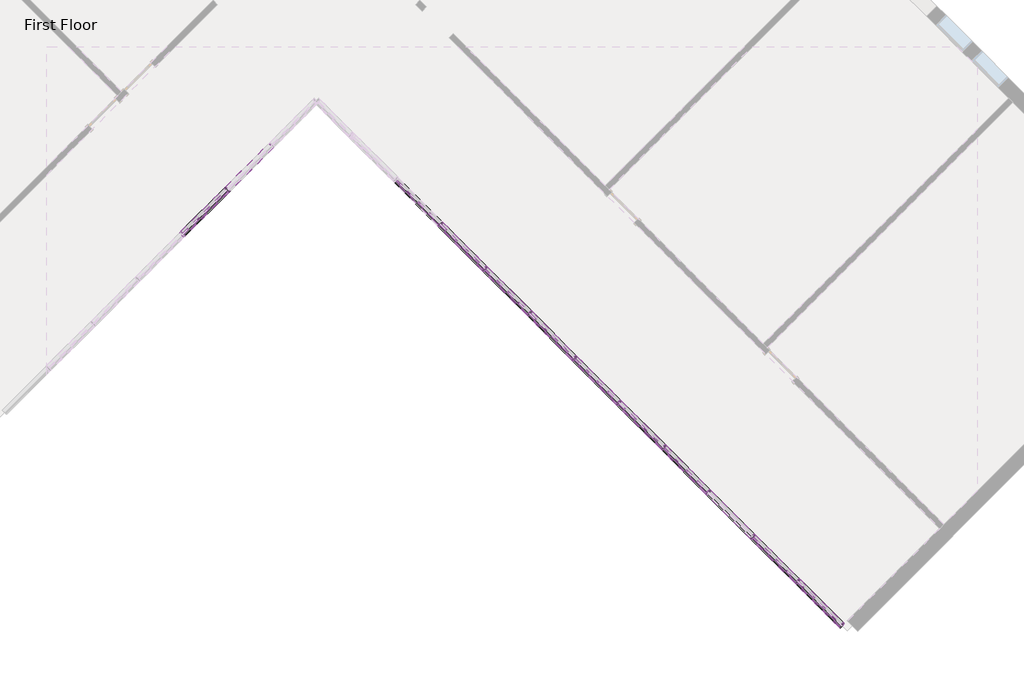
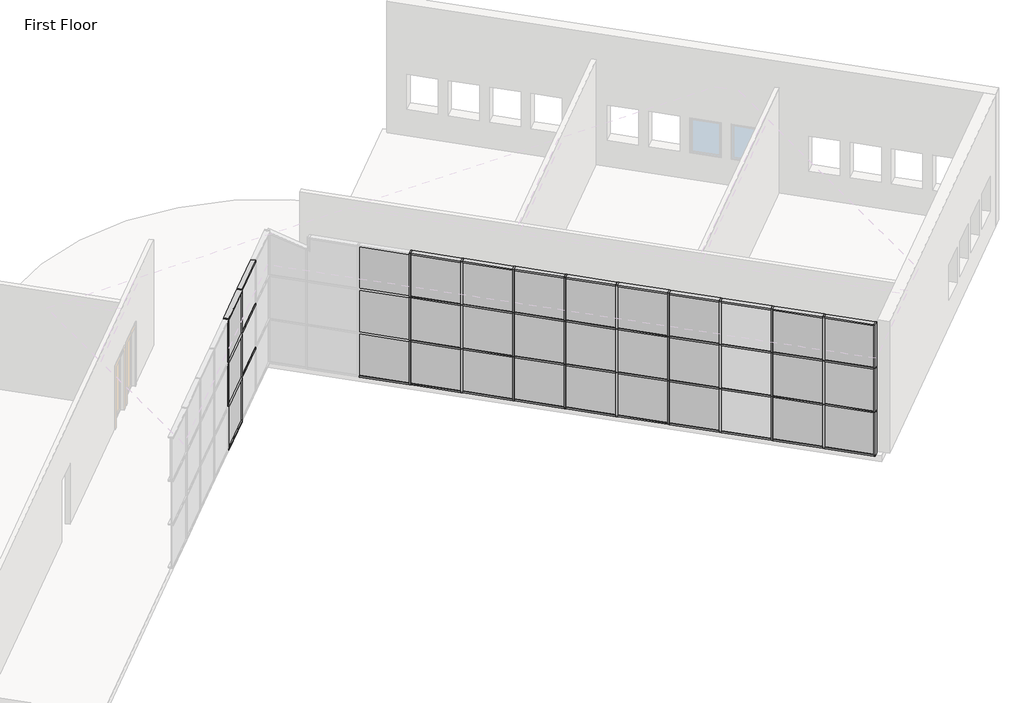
# One storey, part 2 of 4: 77 members, 30 plates.
"""IFC4 building model written with IfcOpenShell, lengths in millimetres."""

from ifc_helpers import new_model, si_unit, origin, place, context, project, spatial, transform, mapped, element, save
from components import rectangular_mullion_50_x_150mm_339d4f99, rectangular_mullion_50_x_150mm_40297ad3, rectangular_mullion_50_x_150mm_ccbf48d0, rectangular_mullion_50_x_150mm_f494fff1, rectangular_mullion_50_x_150mm_5da8f88f, rectangular_mullion_50_x_150mm_6261b450, rectangular_mullion_50_x_150mm_4d330a12, system_panel_glazed_62d989f2, system_panel_glazed_a417ca2b, system_panel_glazed_b8bd361a, system_panel_glazed_7c4ff273, system_panel_solid_7096e89f, system_panel_solid_b6abb4cb, system_panel_solid_a570f427

model = new_model("IFC4")

# Units and contexts
model_context = context("Model", 3, world=origin())
ifc_project = project(units=[si_unit("LENGTHUNIT", "METRE", prefix="MILLI")], contexts=[model_context])

# Site, building, storey
site = spatial("IfcSite", under=ifc_project)
building = spatial("IfcBuilding", under=site)
storey = spatial("IfcBuildingStorey", under=building, Name="First Floor", Elevation=0.0)

# Members
placement = place(None, origin())
rectangular_mullion_50_x_150mm_shape = rectangular_mullion_50_x_150mm_339d4f99(model_context)
element("IfcMember", 1, ObjectType="Rectangular Mullion : 50 x 150mm", at=placement, inside=storey, context=model_context, shape_type="MappedRepresentation", body=[
    mapped(rectangular_mullion_50_x_150mm_shape, transform((11047.480406, -10654.0737858, 0.0), x_axis=(0.0, 0.0, -1.0), y_axis=(0.7071067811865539, 0.7071067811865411, 0.0), z_axis=(0.7071067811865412, -0.707106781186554, 0.0))),
])
rectangular_mullion_50_x_150mm_2_shape = rectangular_mullion_50_x_150mm_40297ad3(model_context)
element("IfcMember", 2, ObjectType="Rectangular Mullion : 50 x 150mm", at=placement, inside=storey, context=model_context, shape_type="MappedRepresentation", body=[
    mapped(rectangular_mullion_50_x_150mm_2_shape, transform((-3756.507165, -160.609153, 0.0), x_axis=(-0.7071067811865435, -0.7071067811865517, 0.0), y_axis=(-0.7071067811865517, 0.7071067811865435, 0.0), z_axis=(0.0, 0.0, -1.0))),
])
element("IfcMember", 3, ObjectType="Rectangular Mullion : 50 x 150mm", at=placement, inside=storey, context=model_context, shape_type="MappedRepresentation", body=[
    mapped(rectangular_mullion_50_x_150mm_2_shape, transform((10005.2050105, -9611.7983903, 0.0), x_axis=(-0.7071067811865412, 0.7071067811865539, 0.0), y_axis=(0.7071067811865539, 0.7071067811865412, 0.0), z_axis=(0.0, 0.0, -1.0))),
])
element("IfcMember", 4, ObjectType="Rectangular Mullion : 50 x 150mm", at=placement, inside=storey, context=model_context, shape_type="MappedRepresentation", body=[
    mapped(rectangular_mullion_50_x_150mm_2_shape, transform((8927.574276, -8534.1676558, 0.0), x_axis=(-0.7071067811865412, 0.7071067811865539, 0.0), y_axis=(0.7071067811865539, 0.7071067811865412, 0.0), z_axis=(0.0, 0.0, -1.0))),
])
element("IfcMember", 5, ObjectType="Rectangular Mullion : 50 x 150mm", at=placement, inside=storey, context=model_context, shape_type="MappedRepresentation", body=[
    mapped(rectangular_mullion_50_x_150mm_2_shape, transform((7849.9435414, -7456.5369213, 0.0), x_axis=(-0.7071067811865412, 0.7071067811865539, 0.0), y_axis=(0.7071067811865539, 0.7071067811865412, 0.0), z_axis=(0.0, 0.0, -1.0))),
])
element("IfcMember", 6, ObjectType="Rectangular Mullion : 50 x 150mm", at=placement, inside=storey, context=model_context, shape_type="MappedRepresentation", body=[
    mapped(rectangular_mullion_50_x_150mm_2_shape, transform((6772.3128069, -6378.9061867, 0.0), x_axis=(-0.7071067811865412, 0.7071067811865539, 0.0), y_axis=(0.7071067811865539, 0.7071067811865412, 0.0), z_axis=(0.0, 0.0, -1.0))),
])
element("IfcMember", 7, ObjectType="Rectangular Mullion : 50 x 150mm", at=placement, inside=storey, context=model_context, shape_type="MappedRepresentation", body=[
    mapped(rectangular_mullion_50_x_150mm_2_shape, transform((5694.6820724, -5301.2754522, 0.0), x_axis=(-0.7071067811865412, 0.7071067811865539, 0.0), y_axis=(0.7071067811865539, 0.7071067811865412, 0.0), z_axis=(0.0, 0.0, -1.0))),
])
element("IfcMember", 8, ObjectType="Rectangular Mullion : 50 x 150mm", at=placement, inside=storey, context=model_context, shape_type="MappedRepresentation", body=[
    mapped(rectangular_mullion_50_x_150mm_2_shape, transform((4617.0513378, -4223.6447177, 0.0), x_axis=(-0.7071067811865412, 0.7071067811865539, 0.0), y_axis=(0.7071067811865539, 0.7071067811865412, 0.0), z_axis=(0.0, 0.0, -1.0))),
])
element("IfcMember", 9, ObjectType="Rectangular Mullion : 50 x 150mm", at=placement, inside=storey, context=model_context, shape_type="MappedRepresentation", body=[
    mapped(rectangular_mullion_50_x_150mm_2_shape, transform((3539.4206033, -3146.0139832, 0.0), x_axis=(-0.7071067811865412, 0.7071067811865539, 0.0), y_axis=(0.7071067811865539, 0.7071067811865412, 0.0), z_axis=(0.0, 0.0, -1.0))),
])
element("IfcMember", 10, ObjectType="Rectangular Mullion : 50 x 150mm", at=placement, inside=storey, context=model_context, shape_type="MappedRepresentation", body=[
    mapped(rectangular_mullion_50_x_150mm_2_shape, transform((2461.7898688, -2068.3832486, 0.0), x_axis=(-0.7071067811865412, 0.7071067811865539, 0.0), y_axis=(0.7071067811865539, 0.7071067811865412, 0.0), z_axis=(0.0, 0.0, -1.0))),
])
element("IfcMember", 11, ObjectType="Rectangular Mullion : 50 x 150mm", at=placement, inside=storey, context=model_context, shape_type="MappedRepresentation", body=[
    mapped(rectangular_mullion_50_x_150mm_2_shape, transform((1384.1591343, -990.7525141, 0.0), x_axis=(-0.7071067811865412, 0.7071067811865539, 0.0), y_axis=(0.7071067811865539, 0.7071067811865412, 0.0), z_axis=(0.0, 0.0, -1.0))),
])
rectangular_mullion_50_x_150mm_3_shape = rectangular_mullion_50_x_150mm_ccbf48d0(model_context)
element("IfcMember", 12, ObjectType="Rectangular Mullion : 50 x 150mm", at=placement, inside=storey, context=model_context, shape_type="MappedRepresentation", body=[
    mapped(rectangular_mullion_50_x_150mm_3_shape, transform((10022.88268, -9629.4760599, 1524.0), x_axis=(0.0, 0.0, 1.0), y_axis=(0.7071067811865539, 0.7071067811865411, 0.0), z_axis=(-0.7071067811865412, 0.707106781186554, 0.0))),
])
element("IfcMember", 13, ObjectType="Rectangular Mullion : 50 x 150mm", at=placement, inside=storey, context=model_context, shape_type="MappedRepresentation", body=[
    mapped(rectangular_mullion_50_x_150mm_3_shape, transform((10022.88268, -9629.4760599, 3048.0), x_axis=(0.0, 0.0, 1.0), y_axis=(0.7071067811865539, 0.7071067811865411, 0.0), z_axis=(-0.7071067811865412, 0.707106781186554, 0.0))),
])
rectangular_mullion_50_x_150mm_4_shape = rectangular_mullion_50_x_150mm_f494fff1(model_context)
element("IfcMember", 14, ObjectType="Rectangular Mullion : 50 x 150mm", at=placement, inside=storey, context=model_context, shape_type="MappedRepresentation", body=[
    mapped(rectangular_mullion_50_x_150mm_4_shape, transform((-3738.8294954, -142.9314835, 1524.0), x_axis=(0.0, 0.0, 1.0), y_axis=(-0.7071067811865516, 0.7071067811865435, 0.0), z_axis=(-0.7071067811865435, -0.7071067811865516, 0.0))),
])
element("IfcMember", 15, ObjectType="Rectangular Mullion : 50 x 150mm", at=placement, inside=storey, context=model_context, shape_type="MappedRepresentation", body=[
    mapped(rectangular_mullion_50_x_150mm_4_shape, transform((-3738.8294954, -142.9314835, 3048.0), x_axis=(0.0, 0.0, 1.0), y_axis=(-0.7071067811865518, 0.7071067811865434, 0.0), z_axis=(-0.7071067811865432, -0.7071067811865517, 0.0))),
])
element("IfcMember", 16, ObjectType="Rectangular Mullion : 50 x 150mm", at=placement, inside=storey, context=model_context, shape_type="MappedRepresentation", body=[
    mapped(rectangular_mullion_50_x_150mm_4_shape, transform((8945.2519455, -8551.8453253, 1524.0), x_axis=(0.0, 0.0, 1.0), y_axis=(0.7071067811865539, 0.7071067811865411, 0.0), z_axis=(-0.7071067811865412, 0.707106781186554, 0.0))),
])
element("IfcMember", 17, ObjectType="Rectangular Mullion : 50 x 150mm", at=placement, inside=storey, context=model_context, shape_type="MappedRepresentation", body=[
    mapped(rectangular_mullion_50_x_150mm_4_shape, transform((7867.621211, -7474.2145908, 1524.0), x_axis=(0.0, 0.0, 1.0), y_axis=(0.7071067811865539, 0.7071067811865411, 0.0), z_axis=(-0.7071067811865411, 0.7071067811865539, 0.0))),
])
element("IfcMember", 18, ObjectType="Rectangular Mullion : 50 x 150mm", at=placement, inside=storey, context=model_context, shape_type="MappedRepresentation", body=[
    mapped(rectangular_mullion_50_x_150mm_4_shape, transform((6789.9904764, -6396.5838563, 1524.0), x_axis=(0.0, 0.0, 1.0), y_axis=(0.7071067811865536, 0.7071067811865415, 0.0), z_axis=(-0.7071067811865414, 0.7071067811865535, 0.0))),
])
element("IfcMember", 19, ObjectType="Rectangular Mullion : 50 x 150mm", at=placement, inside=storey, context=model_context, shape_type="MappedRepresentation", body=[
    mapped(rectangular_mullion_50_x_150mm_4_shape, transform((5712.3597419, -5318.9531217, 1524.0), x_axis=(0.0, 0.0, 1.0), y_axis=(0.7071067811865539, 0.7071067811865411, 0.0), z_axis=(-0.7071067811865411, 0.7071067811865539, 0.0))),
])
element("IfcMember", 20, ObjectType="Rectangular Mullion : 50 x 150mm", at=placement, inside=storey, context=model_context, shape_type="MappedRepresentation", body=[
    mapped(rectangular_mullion_50_x_150mm_4_shape, transform((4634.7290074, -4241.3223872, 1524.0), x_axis=(0.0, 0.0, 1.0), y_axis=(0.707106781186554, 0.7071067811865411, 0.0), z_axis=(-0.707106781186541, 0.7071067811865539, 0.0))),
])
element("IfcMember", 21, ObjectType="Rectangular Mullion : 50 x 150mm", at=placement, inside=storey, context=model_context, shape_type="MappedRepresentation", body=[
    mapped(rectangular_mullion_50_x_150mm_4_shape, transform((3557.0982728, -3163.6916527, 1524.0), x_axis=(0.0, 0.0, 1.0), y_axis=(0.7071067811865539, 0.7071067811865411, 0.0), z_axis=(-0.7071067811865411, 0.7071067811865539, 0.0))),
])
element("IfcMember", 22, ObjectType="Rectangular Mullion : 50 x 150mm", at=placement, inside=storey, context=model_context, shape_type="MappedRepresentation", body=[
    mapped(rectangular_mullion_50_x_150mm_4_shape, transform((2479.4675383, -2086.0609182, 1524.0), x_axis=(0.0, 0.0, 1.0), y_axis=(0.7071067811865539, 0.7071067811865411, 0.0), z_axis=(-0.7071067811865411, 0.7071067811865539, 0.0))),
])
element("IfcMember", 23, ObjectType="Rectangular Mullion : 50 x 150mm", at=placement, inside=storey, context=model_context, shape_type="MappedRepresentation", body=[
    mapped(rectangular_mullion_50_x_150mm_4_shape, transform((1401.8368038, -1008.4301836, 1524.0), x_axis=(0.0, 0.0, 1.0), y_axis=(0.7071067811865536, 0.7071067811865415, 0.0), z_axis=(-0.7071067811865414, 0.7071067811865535, 0.0))),
])
element("IfcMember", 24, ObjectType="Rectangular Mullion : 50 x 150mm", at=placement, inside=storey, context=model_context, shape_type="MappedRepresentation", body=[
    mapped(rectangular_mullion_50_x_150mm_4_shape, transform((8945.2519455, -8551.8453253, 3048.0), x_axis=(0.0, 0.0, 1.0), y_axis=(0.7071067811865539, 0.7071067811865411, 0.0), z_axis=(-0.7071067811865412, 0.707106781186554, 0.0))),
])
element("IfcMember", 25, ObjectType="Rectangular Mullion : 50 x 150mm", at=placement, inside=storey, context=model_context, shape_type="MappedRepresentation", body=[
    mapped(rectangular_mullion_50_x_150mm_4_shape, transform((7867.621211, -7474.2145908, 3048.0), x_axis=(0.0, 0.0, 1.0), y_axis=(0.7071067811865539, 0.7071067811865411, 0.0), z_axis=(-0.7071067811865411, 0.7071067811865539, 0.0))),
])
element("IfcMember", 26, ObjectType="Rectangular Mullion : 50 x 150mm", at=placement, inside=storey, context=model_context, shape_type="MappedRepresentation", body=[
    mapped(rectangular_mullion_50_x_150mm_4_shape, transform((6789.9904764, -6396.5838563, 3048.0), x_axis=(0.0, 0.0, 1.0), y_axis=(0.7071067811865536, 0.7071067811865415, 0.0), z_axis=(-0.7071067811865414, 0.7071067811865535, 0.0))),
])
element("IfcMember", 27, ObjectType="Rectangular Mullion : 50 x 150mm", at=placement, inside=storey, context=model_context, shape_type="MappedRepresentation", body=[
    mapped(rectangular_mullion_50_x_150mm_4_shape, transform((5712.3597419, -5318.9531217, 3048.0), x_axis=(0.0, 0.0, 1.0), y_axis=(0.7071067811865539, 0.7071067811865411, 0.0), z_axis=(-0.7071067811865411, 0.7071067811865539, 0.0))),
])
element("IfcMember", 28, ObjectType="Rectangular Mullion : 50 x 150mm", at=placement, inside=storey, context=model_context, shape_type="MappedRepresentation", body=[
    mapped(rectangular_mullion_50_x_150mm_4_shape, transform((4634.7290074, -4241.3223872, 3048.0), x_axis=(0.0, 0.0, 1.0), y_axis=(0.7071067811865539, 0.7071067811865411, 0.0), z_axis=(-0.7071067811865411, 0.7071067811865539, 0.0))),
])
element("IfcMember", 29, ObjectType="Rectangular Mullion : 50 x 150mm", at=placement, inside=storey, context=model_context, shape_type="MappedRepresentation", body=[
    mapped(rectangular_mullion_50_x_150mm_4_shape, transform((3557.0982728, -3163.6916527, 3048.0), x_axis=(0.0, 0.0, 1.0), y_axis=(0.7071067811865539, 0.7071067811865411, 0.0), z_axis=(-0.7071067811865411, 0.7071067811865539, 0.0))),
])
element("IfcMember", 30, ObjectType="Rectangular Mullion : 50 x 150mm", at=placement, inside=storey, context=model_context, shape_type="MappedRepresentation", body=[
    mapped(rectangular_mullion_50_x_150mm_4_shape, transform((2479.4675383, -2086.0609182, 3048.0), x_axis=(0.0, 0.0, 1.0), y_axis=(0.7071067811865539, 0.7071067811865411, 0.0), z_axis=(-0.7071067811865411, 0.7071067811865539, 0.0))),
])
element("IfcMember", 31, ObjectType="Rectangular Mullion : 50 x 150mm", at=placement, inside=storey, context=model_context, shape_type="MappedRepresentation", body=[
    mapped(rectangular_mullion_50_x_150mm_4_shape, transform((1401.8368038, -1008.4301836, 3048.0), x_axis=(0.0, 0.0, 1.0), y_axis=(0.7071067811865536, 0.7071067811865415, 0.0), z_axis=(-0.7071067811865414, 0.7071067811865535, 0.0))),
])
rectangular_mullion_50_x_150mm_5_shape = rectangular_mullion_50_x_150mm_5da8f88f(model_context)
element("IfcMember", 32, ObjectType="Rectangular Mullion : 50 x 150mm", at=placement, inside=storey, context=model_context, shape_type="MappedRepresentation", body=[
    mapped(rectangular_mullion_50_x_150mm_5_shape, transform((-3774.1848345, -178.2868225, 0.0), x_axis=(0.0, 0.0, -1.0), y_axis=(-0.7071067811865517, 0.7071067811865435, 0.0), z_axis=(0.7071067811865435, 0.7071067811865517, 0.0))),
])
element("IfcMember", 33, ObjectType="Rectangular Mullion : 50 x 150mm", at=placement, inside=storey, context=model_context, shape_type="MappedRepresentation", body=[
    mapped(rectangular_mullion_50_x_150mm_5_shape, transform((9987.527341, -9594.1207208, 0.0), x_axis=(0.0, 0.0, -1.0), y_axis=(0.7071067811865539, 0.7071067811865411, 0.0), z_axis=(0.7071067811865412, -0.707106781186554, 0.0))),
])
element("IfcMember", 34, ObjectType="Rectangular Mullion : 50 x 150mm", at=placement, inside=storey, context=model_context, shape_type="MappedRepresentation", body=[
    mapped(rectangular_mullion_50_x_150mm_5_shape, transform((8909.8966064, -8516.4899863, 0.0), x_axis=(0.0, 0.0, -1.0), y_axis=(0.7071067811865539, 0.7071067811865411, 0.0), z_axis=(0.7071067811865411, -0.7071067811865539, 0.0))),
])
element("IfcMember", 35, ObjectType="Rectangular Mullion : 50 x 150mm", at=placement, inside=storey, context=model_context, shape_type="MappedRepresentation", body=[
    mapped(rectangular_mullion_50_x_150mm_5_shape, transform((7832.2658719, -7438.8592517, 0.0), x_axis=(0.0, 0.0, -1.0), y_axis=(0.7071067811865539, 0.7071067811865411, 0.0), z_axis=(0.7071067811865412, -0.707106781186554, 0.0))),
])
element("IfcMember", 36, ObjectType="Rectangular Mullion : 50 x 150mm", at=placement, inside=storey, context=model_context, shape_type="MappedRepresentation", body=[
    mapped(rectangular_mullion_50_x_150mm_5_shape, transform((6754.6351374, -6361.2285172, 0.0), x_axis=(0.0, 0.0, -1.0), y_axis=(0.7071067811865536, 0.7071067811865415, 0.0), z_axis=(0.7071067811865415, -0.7071067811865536, 0.0))),
])
element("IfcMember", 37, ObjectType="Rectangular Mullion : 50 x 150mm", at=placement, inside=storey, context=model_context, shape_type="MappedRepresentation", body=[
    mapped(rectangular_mullion_50_x_150mm_5_shape, transform((5677.0044028, -5283.5977827, 0.0), x_axis=(0.0, 0.0, -1.0), y_axis=(0.707106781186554, 0.7071067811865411, 0.0), z_axis=(0.707106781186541, -0.7071067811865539, 0.0))),
])
element("IfcMember", 38, ObjectType="Rectangular Mullion : 50 x 150mm", at=placement, inside=storey, context=model_context, shape_type="MappedRepresentation", body=[
    mapped(rectangular_mullion_50_x_150mm_5_shape, transform((4599.3736683, -4205.9670481, 0.0), x_axis=(0.0, 0.0, -1.0), y_axis=(0.7071067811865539, 0.7071067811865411, 0.0), z_axis=(0.7071067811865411, -0.7071067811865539, 0.0))),
])
element("IfcMember", 39, ObjectType="Rectangular Mullion : 50 x 150mm", at=placement, inside=storey, context=model_context, shape_type="MappedRepresentation", body=[
    mapped(rectangular_mullion_50_x_150mm_5_shape, transform((3521.7429338, -3128.3363136, 0.0), x_axis=(0.0, 0.0, -1.0), y_axis=(0.7071067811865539, 0.7071067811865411, 0.0), z_axis=(0.7071067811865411, -0.7071067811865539, 0.0))),
])
element("IfcMember", 40, ObjectType="Rectangular Mullion : 50 x 150mm", at=placement, inside=storey, context=model_context, shape_type="MappedRepresentation", body=[
    mapped(rectangular_mullion_50_x_150mm_5_shape, transform((2444.1121993, -2050.7055791, 0.0), x_axis=(0.0, 0.0, -1.0), y_axis=(0.7071067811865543, 0.7071067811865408, 0.0), z_axis=(0.7071067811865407, -0.7071067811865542, 0.0))),
])
element("IfcMember", 41, ObjectType="Rectangular Mullion : 50 x 150mm", at=placement, inside=storey, context=model_context, shape_type="MappedRepresentation", body=[
    mapped(rectangular_mullion_50_x_150mm_5_shape, transform((1366.4814647, -973.0748446, 0.0), x_axis=(0.0, 0.0, -1.0), y_axis=(0.7071067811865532, 0.7071067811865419, 0.0), z_axis=(0.7071067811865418, -0.7071067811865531, 0.0))),
])
element("IfcMember", 42, ObjectType="Rectangular Mullion : 50 x 150mm", at=placement, inside=storey, context=model_context, shape_type="MappedRepresentation", body=[
    mapped(rectangular_mullion_50_x_150mm_shape, transform((10022.88268, -9629.4760599, 4572.0), x_axis=(0.0, 0.0, 1.0), y_axis=(0.7071067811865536, 0.7071067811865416, 0.0), z_axis=(-0.7071067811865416, 0.7071067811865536, 0.0))),
])
element("IfcMember", 43, ObjectType="Rectangular Mullion : 50 x 150mm", at=placement, inside=storey, context=model_context, shape_type="MappedRepresentation", body=[
    mapped(rectangular_mullion_50_x_150mm_5_shape, transform((-3738.8294954, -142.9314835, 4571.7250795), x_axis=(0.0, 0.0, 1.0), y_axis=(-0.7071067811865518, 0.7071067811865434, 0.0), z_axis=(-0.7071067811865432, -0.7071067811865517, 0.0))),
])
element("IfcMember", 44, ObjectType="Rectangular Mullion : 50 x 150mm", at=placement, inside=storey, context=model_context, shape_type="MappedRepresentation", body=[
    mapped(rectangular_mullion_50_x_150mm_5_shape, transform((-4816.46023, -1220.562218, 4571.7250795), x_axis=(0.0, 0.0, 1.0), y_axis=(-0.7071067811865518, 0.7071067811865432, 0.0), z_axis=(-0.7071067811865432, -0.7071067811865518, 0.0))),
])
element("IfcMember", 45, ObjectType="Rectangular Mullion : 50 x 150mm", at=placement, inside=storey, context=model_context, shape_type="MappedRepresentation", body=[
    mapped(rectangular_mullion_50_x_150mm_5_shape, transform((8945.2519455, -8551.8453253, 4572.0), x_axis=(0.0, 0.0, 1.0), y_axis=(0.7071067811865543, 0.7071067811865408, 0.0), z_axis=(-0.7071067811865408, 0.7071067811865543, 0.0))),
])
element("IfcMember", 46, ObjectType="Rectangular Mullion : 50 x 150mm", at=placement, inside=storey, context=model_context, shape_type="MappedRepresentation", body=[
    mapped(rectangular_mullion_50_x_150mm_5_shape, transform((7867.621211, -7474.2145908, 4572.0), x_axis=(0.0, 0.0, 1.0), y_axis=(0.707106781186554, 0.7071067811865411, 0.0), z_axis=(-0.707106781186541, 0.7071067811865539, 0.0))),
])
element("IfcMember", 47, ObjectType="Rectangular Mullion : 50 x 150mm", at=placement, inside=storey, context=model_context, shape_type="MappedRepresentation", body=[
    mapped(rectangular_mullion_50_x_150mm_5_shape, transform((6789.9904764, -6396.5838563, 4572.0), x_axis=(0.0, 0.0, 1.0), y_axis=(0.7071067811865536, 0.7071067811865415, 0.0), z_axis=(-0.7071067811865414, 0.7071067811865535, 0.0))),
])
element("IfcMember", 48, ObjectType="Rectangular Mullion : 50 x 150mm", at=placement, inside=storey, context=model_context, shape_type="MappedRepresentation", body=[
    mapped(rectangular_mullion_50_x_150mm_5_shape, transform((5712.3597419, -5318.9531217, 4572.0), x_axis=(0.0, 0.0, 1.0), y_axis=(0.7071067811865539, 0.7071067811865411, 0.0), z_axis=(-0.7071067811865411, 0.7071067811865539, 0.0))),
])
element("IfcMember", 49, ObjectType="Rectangular Mullion : 50 x 150mm", at=placement, inside=storey, context=model_context, shape_type="MappedRepresentation", body=[
    mapped(rectangular_mullion_50_x_150mm_5_shape, transform((4634.7290074, -4241.3223872, 4572.0), x_axis=(0.0, 0.0, 1.0), y_axis=(0.7071067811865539, 0.7071067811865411, 0.0), z_axis=(-0.7071067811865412, 0.707106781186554, 0.0))),
])
element("IfcMember", 50, ObjectType="Rectangular Mullion : 50 x 150mm", at=placement, inside=storey, context=model_context, shape_type="MappedRepresentation", body=[
    mapped(rectangular_mullion_50_x_150mm_5_shape, transform((3557.0982728, -3163.6916527, 4572.0), x_axis=(0.0, 0.0, 1.0), y_axis=(0.707106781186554, 0.7071067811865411, 0.0), z_axis=(-0.707106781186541, 0.7071067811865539, 0.0))),
])
element("IfcMember", 51, ObjectType="Rectangular Mullion : 50 x 150mm", at=placement, inside=storey, context=model_context, shape_type="MappedRepresentation", body=[
    mapped(rectangular_mullion_50_x_150mm_5_shape, transform((2479.4675383, -2086.0609182, 4572.0), x_axis=(0.0, 0.0, 1.0), y_axis=(0.7071067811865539, 0.7071067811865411, 0.0), z_axis=(-0.7071067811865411, 0.7071067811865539, 0.0))),
])
element("IfcMember", 52, ObjectType="Rectangular Mullion : 50 x 150mm", at=placement, inside=storey, context=model_context, shape_type="MappedRepresentation", body=[
    mapped(rectangular_mullion_50_x_150mm_5_shape, transform((1401.8368038, -1008.4301836, 4572.0), x_axis=(0.0, 0.0, 1.0), y_axis=(0.7071067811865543, 0.7071067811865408, 0.0), z_axis=(-0.7071067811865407, 0.7071067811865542, 0.0))),
])
element("IfcMember", 53, ObjectType="Rectangular Mullion : 50 x 150mm", at=placement, inside=storey, context=model_context, shape_type="MappedRepresentation", body=[
    mapped(rectangular_mullion_50_x_150mm_2_shape, transform((-3756.507165, -160.609153, 1524.0), x_axis=(-0.7071067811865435, -0.7071067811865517, 0.0), y_axis=(-0.7071067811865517, 0.7071067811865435, 0.0), z_axis=(0.0, 0.0, -1.0))),
])
element("IfcMember", 54, ObjectType="Rectangular Mullion : 50 x 150mm", at=placement, inside=storey, context=model_context, shape_type="MappedRepresentation", body=[
    mapped(rectangular_mullion_50_x_150mm_2_shape, transform((-4834.1378995, -1238.2398875, 1524.0), x_axis=(-0.7071067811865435, -0.7071067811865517, 0.0), y_axis=(-0.7071067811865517, 0.7071067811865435, 0.0), z_axis=(0.0, 0.0, -1.0))),
])
element("IfcMember", 55, ObjectType="Rectangular Mullion : 50 x 150mm", at=placement, inside=storey, context=model_context, shape_type="MappedRepresentation", body=[
    mapped(rectangular_mullion_50_x_150mm_2_shape, transform((10005.2050105, -9611.7983903, 1524.0), x_axis=(-0.7071067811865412, 0.7071067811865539, 0.0), y_axis=(0.7071067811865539, 0.7071067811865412, 0.0), z_axis=(0.0, 0.0, -1.0))),
])
element("IfcMember", 56, ObjectType="Rectangular Mullion : 50 x 150mm", at=placement, inside=storey, context=model_context, shape_type="MappedRepresentation", body=[
    mapped(rectangular_mullion_50_x_150mm_2_shape, transform((8927.574276, -8534.1676558, 1524.0), x_axis=(-0.7071067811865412, 0.7071067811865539, 0.0), y_axis=(0.7071067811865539, 0.7071067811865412, 0.0), z_axis=(0.0, 0.0, -1.0))),
])
element("IfcMember", 57, ObjectType="Rectangular Mullion : 50 x 150mm", at=placement, inside=storey, context=model_context, shape_type="MappedRepresentation", body=[
    mapped(rectangular_mullion_50_x_150mm_2_shape, transform((7849.9435414, -7456.5369213, 1524.0), x_axis=(-0.7071067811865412, 0.7071067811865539, 0.0), y_axis=(0.7071067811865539, 0.7071067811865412, 0.0), z_axis=(0.0, 0.0, -1.0))),
])
element("IfcMember", 58, ObjectType="Rectangular Mullion : 50 x 150mm", at=placement, inside=storey, context=model_context, shape_type="MappedRepresentation", body=[
    mapped(rectangular_mullion_50_x_150mm_2_shape, transform((6772.3128069, -6378.9061867, 1524.0), x_axis=(-0.7071067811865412, 0.7071067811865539, 0.0), y_axis=(0.7071067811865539, 0.7071067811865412, 0.0), z_axis=(0.0, 0.0, -1.0))),
])
element("IfcMember", 59, ObjectType="Rectangular Mullion : 50 x 150mm", at=placement, inside=storey, context=model_context, shape_type="MappedRepresentation", body=[
    mapped(rectangular_mullion_50_x_150mm_2_shape, transform((5694.6820724, -5301.2754522, 1524.0), x_axis=(-0.7071067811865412, 0.7071067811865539, 0.0), y_axis=(0.7071067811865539, 0.7071067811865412, 0.0), z_axis=(0.0, 0.0, -1.0))),
])
element("IfcMember", 60, ObjectType="Rectangular Mullion : 50 x 150mm", at=placement, inside=storey, context=model_context, shape_type="MappedRepresentation", body=[
    mapped(rectangular_mullion_50_x_150mm_2_shape, transform((4617.0513378, -4223.6447177, 1524.0), x_axis=(-0.7071067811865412, 0.7071067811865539, 0.0), y_axis=(0.7071067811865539, 0.7071067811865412, 0.0), z_axis=(0.0, 0.0, -1.0))),
])
element("IfcMember", 61, ObjectType="Rectangular Mullion : 50 x 150mm", at=placement, inside=storey, context=model_context, shape_type="MappedRepresentation", body=[
    mapped(rectangular_mullion_50_x_150mm_2_shape, transform((3539.4206033, -3146.0139832, 1524.0), x_axis=(-0.7071067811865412, 0.7071067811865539, 0.0), y_axis=(0.7071067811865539, 0.7071067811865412, 0.0), z_axis=(0.0, 0.0, -1.0))),
])
element("IfcMember", 62, ObjectType="Rectangular Mullion : 50 x 150mm", at=placement, inside=storey, context=model_context, shape_type="MappedRepresentation", body=[
    mapped(rectangular_mullion_50_x_150mm_2_shape, transform((2461.7898688, -2068.3832486, 1524.0), x_axis=(-0.7071067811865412, 0.7071067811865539, 0.0), y_axis=(0.7071067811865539, 0.7071067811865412, 0.0), z_axis=(0.0, 0.0, -1.0))),
])
element("IfcMember", 63, ObjectType="Rectangular Mullion : 50 x 150mm", at=placement, inside=storey, context=model_context, shape_type="MappedRepresentation", body=[
    mapped(rectangular_mullion_50_x_150mm_2_shape, transform((1384.1591343, -990.7525141, 1524.0), x_axis=(-0.7071067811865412, 0.7071067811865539, 0.0), y_axis=(0.7071067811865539, 0.7071067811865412, 0.0), z_axis=(0.0, 0.0, -1.0))),
])
rectangular_mullion_50_x_150mm_6_shape = rectangular_mullion_50_x_150mm_6261b450(model_context)
element("IfcMember", 64, ObjectType="Rectangular Mullion : 50 x 150mm", at=placement, inside=storey, context=model_context, shape_type="MappedRepresentation", body=[
    mapped(rectangular_mullion_50_x_150mm_6_shape, transform((-3756.507165, -160.609153, 3048.0), x_axis=(-0.7071067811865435, -0.7071067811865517, 0.0), y_axis=(-0.7071067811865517, 0.7071067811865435, 0.0), z_axis=(0.0, 0.0, -1.0))),
])
element("IfcMember", 65, ObjectType="Rectangular Mullion : 50 x 150mm", at=placement, inside=storey, context=model_context, shape_type="MappedRepresentation", body=[
    mapped(rectangular_mullion_50_x_150mm_6_shape, transform((-4834.1378995, -1238.2398875, 3048.0), x_axis=(-0.7071067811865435, -0.7071067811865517, 0.0), y_axis=(-0.7071067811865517, 0.7071067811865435, 0.0), z_axis=(0.0, 0.0, -1.0))),
])
rectangular_mullion_50_x_150mm_7_shape = rectangular_mullion_50_x_150mm_4d330a12(model_context)
element("IfcMember", 66, ObjectType="Rectangular Mullion : 50 x 150mm", at=placement, inside=storey, context=model_context, shape_type="MappedRepresentation", body=[
    mapped(rectangular_mullion_50_x_150mm_7_shape, transform((11082.835745, -10689.4291248, 1524.0), x_axis=(0.7071067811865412, -0.7071067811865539, 0.0), y_axis=(0.7071067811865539, 0.7071067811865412, 0.0), z_axis=(0.0, 0.0, 1.0))),
])
element("IfcMember", 67, ObjectType="Rectangular Mullion : 50 x 150mm", at=placement, inside=storey, context=model_context, shape_type="MappedRepresentation", body=[
    mapped(rectangular_mullion_50_x_150mm_7_shape, transform((11082.835745, -10689.4291248, 3048.0), x_axis=(0.7071067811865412, -0.7071067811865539, 0.0), y_axis=(0.7071067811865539, 0.7071067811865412, 0.0), z_axis=(0.0, 0.0, 1.0))),
])
element("IfcMember", 68, ObjectType="Rectangular Mullion : 50 x 150mm", at=placement, inside=storey, context=model_context, shape_type="MappedRepresentation", body=[
    mapped(rectangular_mullion_50_x_150mm_2_shape, transform((10005.2050105, -9611.7983903, 3048.0), x_axis=(-0.7071067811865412, 0.7071067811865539, 0.0), y_axis=(0.7071067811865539, 0.7071067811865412, 0.0), z_axis=(0.0, 0.0, -1.0))),
])
element("IfcMember", 69, ObjectType="Rectangular Mullion : 50 x 150mm", at=placement, inside=storey, context=model_context, shape_type="MappedRepresentation", body=[
    mapped(rectangular_mullion_50_x_150mm_2_shape, transform((8927.574276, -8534.1676558, 3048.0), x_axis=(-0.7071067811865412, 0.7071067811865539, 0.0), y_axis=(0.7071067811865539, 0.7071067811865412, 0.0), z_axis=(0.0, 0.0, -1.0))),
])
element("IfcMember", 70, ObjectType="Rectangular Mullion : 50 x 150mm", at=placement, inside=storey, context=model_context, shape_type="MappedRepresentation", body=[
    mapped(rectangular_mullion_50_x_150mm_2_shape, transform((7849.9435414, -7456.5369213, 3048.0), x_axis=(-0.7071067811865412, 0.7071067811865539, 0.0), y_axis=(0.7071067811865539, 0.7071067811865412, 0.0), z_axis=(0.0, 0.0, -1.0))),
])
element("IfcMember", 71, ObjectType="Rectangular Mullion : 50 x 150mm", at=placement, inside=storey, context=model_context, shape_type="MappedRepresentation", body=[
    mapped(rectangular_mullion_50_x_150mm_2_shape, transform((6772.3128069, -6378.9061867, 3048.0), x_axis=(-0.7071067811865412, 0.7071067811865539, 0.0), y_axis=(0.7071067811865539, 0.7071067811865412, 0.0), z_axis=(0.0, 0.0, -1.0))),
])
element("IfcMember", 72, ObjectType="Rectangular Mullion : 50 x 150mm", at=placement, inside=storey, context=model_context, shape_type="MappedRepresentation", body=[
    mapped(rectangular_mullion_50_x_150mm_2_shape, transform((5694.6820724, -5301.2754522, 3048.0), x_axis=(-0.7071067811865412, 0.7071067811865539, 0.0), y_axis=(0.7071067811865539, 0.7071067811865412, 0.0), z_axis=(0.0, 0.0, -1.0))),
])
element("IfcMember", 73, ObjectType="Rectangular Mullion : 50 x 150mm", at=placement, inside=storey, context=model_context, shape_type="MappedRepresentation", body=[
    mapped(rectangular_mullion_50_x_150mm_2_shape, transform((4617.0513378, -4223.6447177, 3048.0), x_axis=(-0.7071067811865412, 0.7071067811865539, 0.0), y_axis=(0.7071067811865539, 0.7071067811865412, 0.0), z_axis=(0.0, 0.0, -1.0))),
])
element("IfcMember", 74, ObjectType="Rectangular Mullion : 50 x 150mm", at=placement, inside=storey, context=model_context, shape_type="MappedRepresentation", body=[
    mapped(rectangular_mullion_50_x_150mm_2_shape, transform((3539.4206033, -3146.0139832, 3048.0), x_axis=(-0.7071067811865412, 0.7071067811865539, 0.0), y_axis=(0.7071067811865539, 0.7071067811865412, 0.0), z_axis=(0.0, 0.0, -1.0))),
])
element("IfcMember", 75, ObjectType="Rectangular Mullion : 50 x 150mm", at=placement, inside=storey, context=model_context, shape_type="MappedRepresentation", body=[
    mapped(rectangular_mullion_50_x_150mm_2_shape, transform((2461.7898688, -2068.3832486, 3048.0), x_axis=(-0.7071067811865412, 0.7071067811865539, 0.0), y_axis=(0.7071067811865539, 0.7071067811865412, 0.0), z_axis=(0.0, 0.0, -1.0))),
])
element("IfcMember", 76, ObjectType="Rectangular Mullion : 50 x 150mm", at=placement, inside=storey, context=model_context, shape_type="MappedRepresentation", body=[
    mapped(rectangular_mullion_50_x_150mm_2_shape, transform((1384.1591343, -990.7525141, 3048.0), x_axis=(-0.7071067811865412, 0.7071067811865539, 0.0), y_axis=(0.7071067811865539, 0.7071067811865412, 0.0), z_axis=(0.0, 0.0, -1.0))),
])
element("IfcMember", 77, ObjectType="Rectangular Mullion : 50 x 150mm", at=placement, inside=storey, context=model_context, shape_type="MappedRepresentation", body=[
    mapped(rectangular_mullion_50_x_150mm_7_shape, transform((11082.835745, -10689.4291248, 4572.0), x_axis=(0.7071067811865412, -0.7071067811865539, 0.0), y_axis=(0.7071067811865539, 0.7071067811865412, 0.0), z_axis=(0.0, 0.0, 1.0))),
])

# Plates
system_panel_glazed_shape = system_panel_glazed_62d989f2(model_context)
element("IfcPlate", 78, ObjectType="System Panel : Glazed", at=placement, inside=storey, context=model_context, shape_type="MappedRepresentation", body=[
    mapped(system_panel_glazed_shape, transform((10535.181543, -10141.7749228, 50.0), x_axis=(-0.7071067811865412, 0.7071067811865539, 0.0), y_axis=(-0.7071067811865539, -0.7071067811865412, 0.0), z_axis=(0.0, 0.0, 1.0))),
])
system_panel_glazed_2_shape = system_panel_glazed_a417ca2b(model_context)
element("IfcPlate", 79, ObjectType="System Panel : Glazed", at=placement, inside=storey, context=model_context, shape_type="MappedRepresentation", body=[
    mapped(system_panel_glazed_2_shape, transform((9466.3896432, -9072.9830231, 50.0), x_axis=(-0.7071067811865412, 0.7071067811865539, 0.0), y_axis=(-0.7071067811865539, -0.7071067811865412, 0.0), z_axis=(0.0, 0.0, 1.0))),
])
element("IfcPlate", 80, ObjectType="System Panel : Glazed", at=placement, inside=storey, context=model_context, shape_type="MappedRepresentation", body=[
    mapped(system_panel_glazed_2_shape, transform((7311.1281742, -6917.721554, 50.0), x_axis=(-0.7071067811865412, 0.7071067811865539, 0.0), y_axis=(-0.7071067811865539, -0.7071067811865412, 0.0), z_axis=(0.0, 0.0, 1.0))),
])
element("IfcPlate", 81, ObjectType="System Panel : Glazed", at=placement, inside=storey, context=model_context, shape_type="MappedRepresentation", body=[
    mapped(system_panel_glazed_2_shape, transform((6233.4974396, -5840.0908195, 50.0), x_axis=(-0.7071067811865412, 0.7071067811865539, 0.0), y_axis=(-0.7071067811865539, -0.7071067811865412, 0.0), z_axis=(0.0, 0.0, 1.0))),
])
element("IfcPlate", 82, ObjectType="System Panel : Glazed", at=placement, inside=storey, context=model_context, shape_type="MappedRepresentation", body=[
    mapped(system_panel_glazed_2_shape, transform((5155.8667051, -4762.4600849, 50.0), x_axis=(-0.7071067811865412, 0.7071067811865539, 0.0), y_axis=(-0.7071067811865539, -0.7071067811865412, 0.0), z_axis=(0.0, 0.0, 1.0))),
])
element("IfcPlate", 83, ObjectType="System Panel : Glazed", at=placement, inside=storey, context=model_context, shape_type="MappedRepresentation", body=[
    mapped(system_panel_glazed_2_shape, transform((4078.2359706, -3684.8293504, 50.0), x_axis=(-0.7071067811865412, 0.7071067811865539, 0.0), y_axis=(-0.7071067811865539, -0.7071067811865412, 0.0), z_axis=(0.0, 0.0, 1.0))),
])
element("IfcPlate", 84, ObjectType="System Panel : Glazed", at=placement, inside=storey, context=model_context, shape_type="MappedRepresentation", body=[
    mapped(system_panel_glazed_2_shape, transform((3000.6052361, -2607.1986159, 50.0), x_axis=(-0.7071067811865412, 0.7071067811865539, 0.0), y_axis=(-0.7071067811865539, -0.7071067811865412, 0.0), z_axis=(0.0, 0.0, 1.0))),
])
element("IfcPlate", 85, ObjectType="System Panel : Glazed", at=placement, inside=storey, context=model_context, shape_type="MappedRepresentation", body=[
    mapped(system_panel_glazed_2_shape, transform((1922.9745015, -1529.5678814, 50.0), x_axis=(-0.7071067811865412, 0.7071067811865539, 0.0), y_axis=(-0.7071067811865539, -0.7071067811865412, 0.0), z_axis=(0.0, 0.0, 1.0))),
])
element("IfcPlate", 86, ObjectType="System Panel : Glazed", at=placement, inside=storey, context=model_context, shape_type="MappedRepresentation", body=[
    mapped(system_panel_glazed_2_shape, transform((845.343767, -451.9371468, 50.0), x_axis=(-0.7071067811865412, 0.7071067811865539, 0.0), y_axis=(-0.7071067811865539, -0.7071067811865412, 0.0), z_axis=(0.0, 0.0, 1.0))),
])
element("IfcPlate", 87, ObjectType="System Panel : Glazed", at=placement, inside=storey, context=model_context, shape_type="MappedRepresentation", body=[
    mapped(system_panel_glazed_2_shape, transform((-4295.3225322, -699.4245202, 50.0), x_axis=(-0.7071067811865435, -0.7071067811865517, 0.0), y_axis=(0.7071067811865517, -0.7071067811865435, 0.0), z_axis=(0.0, 0.0, 1.0))),
])
system_panel_glazed_3_shape = system_panel_glazed_b8bd361a(model_context)
element("IfcPlate", 88, ObjectType="System Panel : Glazed", at=placement, inside=storey, context=model_context, shape_type="MappedRepresentation", body=[
    mapped(system_panel_glazed_3_shape, transform((10535.181543, -10141.7749228, 1549.0), x_axis=(-0.7071067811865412, 0.7071067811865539, 0.0), y_axis=(-0.7071067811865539, -0.7071067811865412, 0.0), z_axis=(0.0, 0.0, 1.0))),
])
system_panel_glazed_4_shape = system_panel_glazed_7c4ff273(model_context)
element("IfcPlate", 89, ObjectType="System Panel : Glazed", at=placement, inside=storey, context=model_context, shape_type="MappedRepresentation", body=[
    mapped(system_panel_glazed_4_shape, transform((9466.3896432, -9072.9830231, 1549.0), x_axis=(-0.7071067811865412, 0.7071067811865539, 0.0), y_axis=(-0.7071067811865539, -0.7071067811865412, 0.0), z_axis=(0.0, 0.0, 1.0))),
])
element("IfcPlate", 90, ObjectType="System Panel : Glazed", at=placement, inside=storey, context=model_context, shape_type="MappedRepresentation", body=[
    mapped(system_panel_glazed_4_shape, transform((7311.1281742, -6917.721554, 1549.0), x_axis=(-0.7071067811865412, 0.7071067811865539, 0.0), y_axis=(-0.7071067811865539, -0.7071067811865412, 0.0), z_axis=(0.0, 0.0, 1.0))),
])
element("IfcPlate", 91, ObjectType="System Panel : Glazed", at=placement, inside=storey, context=model_context, shape_type="MappedRepresentation", body=[
    mapped(system_panel_glazed_4_shape, transform((6233.4974396, -5840.0908195, 1549.0), x_axis=(-0.7071067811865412, 0.7071067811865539, 0.0), y_axis=(-0.7071067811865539, -0.7071067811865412, 0.0), z_axis=(0.0, 0.0, 1.0))),
])
element("IfcPlate", 92, ObjectType="System Panel : Glazed", at=placement, inside=storey, context=model_context, shape_type="MappedRepresentation", body=[
    mapped(system_panel_glazed_4_shape, transform((5155.8667051, -4762.4600849, 1549.0), x_axis=(-0.7071067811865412, 0.7071067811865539, 0.0), y_axis=(-0.7071067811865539, -0.7071067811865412, 0.0), z_axis=(0.0, 0.0, 1.0))),
])
element("IfcPlate", 93, ObjectType="System Panel : Glazed", at=placement, inside=storey, context=model_context, shape_type="MappedRepresentation", body=[
    mapped(system_panel_glazed_4_shape, transform((4078.2359706, -3684.8293504, 1549.0), x_axis=(-0.7071067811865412, 0.7071067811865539, 0.0), y_axis=(-0.7071067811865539, -0.7071067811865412, 0.0), z_axis=(0.0, 0.0, 1.0))),
])
element("IfcPlate", 94, ObjectType="System Panel : Glazed", at=placement, inside=storey, context=model_context, shape_type="MappedRepresentation", body=[
    mapped(system_panel_glazed_4_shape, transform((3000.6052361, -2607.1986159, 1549.0), x_axis=(-0.7071067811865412, 0.7071067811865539, 0.0), y_axis=(-0.7071067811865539, -0.7071067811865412, 0.0), z_axis=(0.0, 0.0, 1.0))),
])
element("IfcPlate", 95, ObjectType="System Panel : Glazed", at=placement, inside=storey, context=model_context, shape_type="MappedRepresentation", body=[
    mapped(system_panel_glazed_4_shape, transform((1922.9745015, -1529.5678814, 1549.0), x_axis=(-0.7071067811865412, 0.7071067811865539, 0.0), y_axis=(-0.7071067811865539, -0.7071067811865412, 0.0), z_axis=(0.0, 0.0, 1.0))),
])
element("IfcPlate", 96, ObjectType="System Panel : Glazed", at=placement, inside=storey, context=model_context, shape_type="MappedRepresentation", body=[
    mapped(system_panel_glazed_4_shape, transform((845.343767, -451.9371468, 1549.0), x_axis=(-0.7071067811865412, 0.7071067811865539, 0.0), y_axis=(-0.7071067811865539, -0.7071067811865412, 0.0), z_axis=(0.0, 0.0, 1.0))),
])
element("IfcPlate", 97, ObjectType="System Panel : Glazed", at=placement, inside=storey, context=model_context, shape_type="MappedRepresentation", body=[
    mapped(system_panel_glazed_4_shape, transform((-4295.3225322, -699.4245202, 1549.0), x_axis=(-0.7071067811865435, -0.7071067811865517, 0.0), y_axis=(0.7071067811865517, -0.7071067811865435, 0.0), z_axis=(0.0, 0.0, 1.0))),
])
system_panel_solid_shape = system_panel_solid_7096e89f(model_context)
element("IfcPlate", 98, ObjectType="System Panel : Solid", at=placement, inside=storey, context=model_context, shape_type="MappedRepresentation", body=[
    mapped(system_panel_solid_shape, transform((-4295.3225322, -699.4245202, 3073.0), x_axis=(-0.7071067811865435, -0.7071067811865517, 0.0), y_axis=(0.7071067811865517, -0.7071067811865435, 0.0), z_axis=(0.0, 0.0, 1.0))),
])
system_panel_solid_2_shape = system_panel_solid_b6abb4cb(model_context)
element("IfcPlate", 99, ObjectType="System Panel : Solid", at=placement, inside=storey, context=model_context, shape_type="MappedRepresentation", body=[
    mapped(system_panel_solid_2_shape, transform((10535.181543, -10141.7749228, 3073.0), x_axis=(-0.7071067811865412, 0.7071067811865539, 0.0), y_axis=(-0.7071067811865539, -0.7071067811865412, 0.0), z_axis=(0.0, 0.0, 1.0))),
])
system_panel_solid_3_shape = system_panel_solid_a570f427(model_context)
element("IfcPlate", 100, ObjectType="System Panel : Solid", at=placement, inside=storey, context=model_context, shape_type="MappedRepresentation", body=[
    mapped(system_panel_solid_3_shape, transform((9466.3896432, -9072.9830231, 3073.0), x_axis=(-0.7071067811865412, 0.7071067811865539, 0.0), y_axis=(-0.7071067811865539, -0.7071067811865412, 0.0), z_axis=(0.0, 0.0, 1.0))),
])
element("IfcPlate", 101, ObjectType="System Panel : Solid", at=placement, inside=storey, context=model_context, shape_type="MappedRepresentation", body=[
    mapped(system_panel_solid_3_shape, transform((7311.1281742, -6917.721554, 3073.0), x_axis=(-0.7071067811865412, 0.7071067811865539, 0.0), y_axis=(-0.7071067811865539, -0.7071067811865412, 0.0), z_axis=(0.0, 0.0, 1.0))),
])
element("IfcPlate", 102, ObjectType="System Panel : Solid", at=placement, inside=storey, context=model_context, shape_type="MappedRepresentation", body=[
    mapped(system_panel_solid_3_shape, transform((6233.4974396, -5840.0908195, 3073.0), x_axis=(-0.7071067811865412, 0.7071067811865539, 0.0), y_axis=(-0.7071067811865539, -0.7071067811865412, 0.0), z_axis=(0.0, 0.0, 1.0))),
])
element("IfcPlate", 103, ObjectType="System Panel : Solid", at=placement, inside=storey, context=model_context, shape_type="MappedRepresentation", body=[
    mapped(system_panel_solid_3_shape, transform((5155.8667051, -4762.4600849, 3073.0), x_axis=(-0.7071067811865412, 0.7071067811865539, 0.0), y_axis=(-0.7071067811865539, -0.7071067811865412, 0.0), z_axis=(0.0, 0.0, 1.0))),
])
element("IfcPlate", 104, ObjectType="System Panel : Solid", at=placement, inside=storey, context=model_context, shape_type="MappedRepresentation", body=[
    mapped(system_panel_solid_3_shape, transform((4078.2359706, -3684.8293504, 3073.0), x_axis=(-0.7071067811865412, 0.7071067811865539, 0.0), y_axis=(-0.7071067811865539, -0.7071067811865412, 0.0), z_axis=(0.0, 0.0, 1.0))),
])
element("IfcPlate", 105, ObjectType="System Panel : Solid", at=placement, inside=storey, context=model_context, shape_type="MappedRepresentation", body=[
    mapped(system_panel_solid_3_shape, transform((3000.6052361, -2607.1986159, 3073.0), x_axis=(-0.7071067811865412, 0.7071067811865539, 0.0), y_axis=(-0.7071067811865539, -0.7071067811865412, 0.0), z_axis=(0.0, 0.0, 1.0))),
])
element("IfcPlate", 106, ObjectType="System Panel : Solid", at=placement, inside=storey, context=model_context, shape_type="MappedRepresentation", body=[
    mapped(system_panel_solid_3_shape, transform((1922.9745015, -1529.5678814, 3073.0), x_axis=(-0.7071067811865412, 0.7071067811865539, 0.0), y_axis=(-0.7071067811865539, -0.7071067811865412, 0.0), z_axis=(0.0, 0.0, 1.0))),
])
element("IfcPlate", 107, ObjectType="System Panel : Solid", at=placement, inside=storey, context=model_context, shape_type="MappedRepresentation", body=[
    mapped(system_panel_solid_3_shape, transform((845.343767, -451.9371468, 3073.0), x_axis=(-0.7071067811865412, 0.7071067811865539, 0.0), y_axis=(-0.7071067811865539, -0.7071067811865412, 0.0), z_axis=(0.0, 0.0, 1.0))),
])

save(model, "model.ifc")
